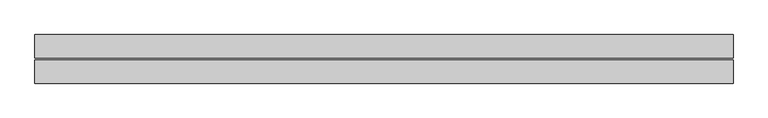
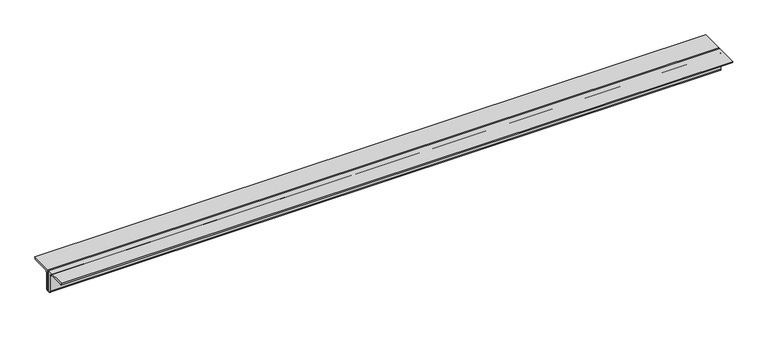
"""IFC4 building model written with IfcOpenShell, lengths in millimetres: beam geometry, Profilati doppi a L : DCED150x12."""

from ifc_helpers import new_model, si_unit, point, frame, frame_2d, origin, place, context, project, spatial, polyline, circle_curve, trimmed, segment, composite_curve, outline, extrude, source, transform, mapped, element, save


def beam_e918075c(model_context):
    return source(origin(), model_context, "Body", "SweptSolid", [
        extrude(outline(composite_curve([segment(polyline([(-6.0, 42.4), (-6.0, -107.6)]), True, "CONTINUOUS"), segment(trimmed(circle_curve(frame_2d((-6.0, -92.6)), 15.0), [point((-6.0, -107.6))], [point((-21.0, -92.6))], False, "CARTESIAN"), True, "CONTINUOUS"), segment(polyline([(-21.0, -92.6), (-21.0, 12.4)]), True, "CONTINUOUS"), segment(trimmed(circle_curve(frame_2d((-36.0, 12.4)), 15.0), [point((-21.0, 12.4))], [point((-36.0, 27.4))], True, "CARTESIAN"), True, "CONTINUOUS"), segment(polyline([(-36.0, 27.4), (-141.0, 27.4)]), True, "CONTINUOUS"), segment(trimmed(circle_curve(frame_2d((-141.0, 42.4)), 15.0), [point((-141.0, 27.4))], [point((-156.0, 42.4))], False, "CARTESIAN"), True, "CONTINUOUS"), segment(polyline([(-156.0, 42.4), (-6.0, 42.4)]), True, "CONTINUOUS")], self_intersect=False)), frame((-2418.0, 0.0, 0.0), z_axis=(1.0, 0.0, 0.0), x_axis=(0.0, 1.0, 0.0)), (0.0, 0.0, 1.0), 4482.0),
        extrude(outline(composite_curve([segment(polyline([(6.0, 42.4), (156.0, 42.4)]), True, "CONTINUOUS"), segment(trimmed(circle_curve(frame_2d((141.0, 42.4)), 15.0), [point((156.0, 42.4))], [point((141.0, 27.4))], False, "CARTESIAN"), True, "CONTINUOUS"), segment(polyline([(141.0, 27.4), (36.0, 27.4)]), True, "CONTINUOUS"), segment(trimmed(circle_curve(frame_2d((36.0, 12.4)), 15.0), [point((36.0, 27.4))], [point((21.0, 12.4))], True, "CARTESIAN"), True, "CONTINUOUS"), segment(polyline([(21.0, 12.4), (21.0, -92.6)]), True, "CONTINUOUS"), segment(trimmed(circle_curve(frame_2d((6.0, -92.6)), 15.0), [point((21.0, -92.6))], [point((6.0, -107.6))], False, "CARTESIAN"), True, "CONTINUOUS"), segment(polyline([(6.0, -107.6), (6.0, 42.4)]), True, "CONTINUOUS")], self_intersect=False)), frame((-2418.0, 0.0, 0.0), z_axis=(1.0, 0.0, 0.0), x_axis=(0.0, 1.0, 0.0)), (0.0, 0.0, 1.0), 4482.0),
    ])


if __name__ == "__main__":
    model = new_model("IFC4")
    model_context = context("Model", 3, world=origin())
    ifc_project = project(units=[si_unit("LENGTHUNIT", "METRE", prefix="MILLI")], contexts=[model_context])
    site = spatial("IfcSite", under=ifc_project)
    building = spatial("IfcBuilding", under=site)
    placement = place(None, origin())
    beam_shape = beam_e918075c(model_context)
    element("IfcBeam", 1, ObjectType="Profilati doppi a L : DCED150x12", at=placement, inside=building, context=model_context, shape_type="MappedRepresentation", body=[
        mapped(beam_shape, transform((0.0, 0.0, 0.0), x_axis=(1.0, 0.0, 0.0), y_axis=(0.0, 1.0, 0.0), z_axis=(0.0, 0.0, 1.0))),
    ])
    save(model, "model.ifc")
